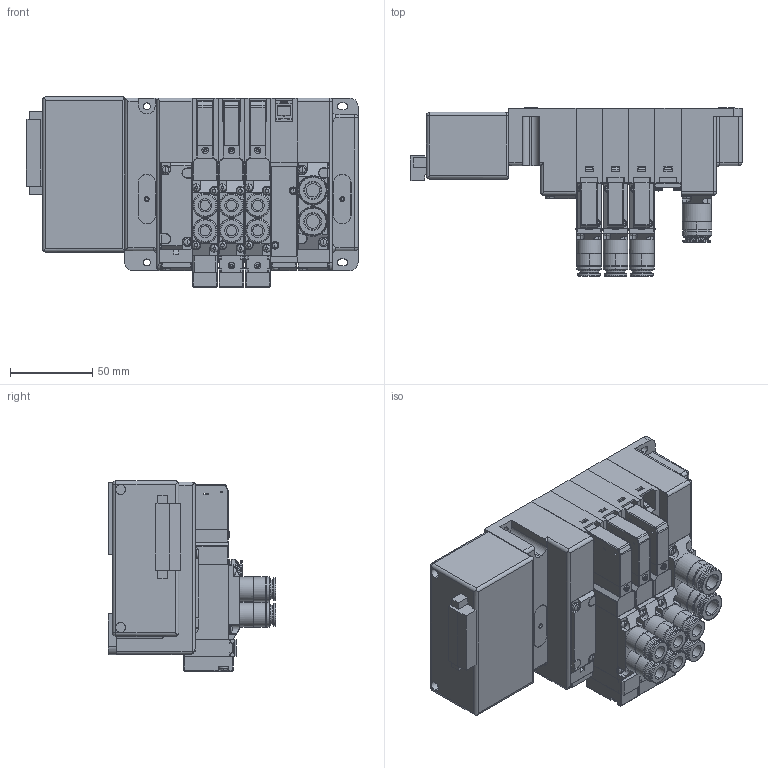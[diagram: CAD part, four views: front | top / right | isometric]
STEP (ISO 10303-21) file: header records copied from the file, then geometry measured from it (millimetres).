
FILE_DESCRIPTION( (''), '2;1');
FILE_NAME ('CVICAD02.4348.F15M4XS-JR-B1_21919.stp','2021-07-12T19:15:09',(''),(''),'spGate 12.6.6','','');
FILE_SCHEMA (('AUTOMOTIVE_DESIGN'));
Length unit declared in the file: millimetre
Products named in the file (22): Assembly; CVICAD02-prt0; CVICAD02-prt1; CVICAD02-asm1; CVICAD02-asm2; CVICAD02-prt10; CVICAD02-asm3; CVICAD02-asm4; CVICAD02-prt14; CVICAD02-prt15; CVICAD02-prt16; CVICAD02-prt2; CVICAD02-prt3; CVICAD02-prt4; CVICAD02-prt5; CVICAD02-prt6; CVICAD02-prt7; CVICAD02-prt8; CVICAD02-prt9; CVICAD02-prt11; Y029261_キャップ(DINねじ穴用)_20190809; CVICAD02-prt13
Assembly tree (37 placements, depth 3):
  Assembly
    CVICAD02-prt0  x4
    CVICAD02-prt1  x3
    CVICAD02-asm1
      CVICAD02-prt2
      CVICAD02-prt3
      CVICAD02-prt4
      CVICAD02-prt5
      CVICAD02-prt6
      CVICAD02-prt7
      CVICAD02-prt8
    CVICAD02-asm2  x2
      CVICAD02-prt2
      CVICAD02-prt3
      CVICAD02-prt4
      CVICAD02-prt6
      CVICAD02-prt9
      CVICAD02-prt7
      CVICAD02-prt8
    CVICAD02-prt10
    CVICAD02-asm3
      CVICAD02-prt11
      Y029261_キャップ(DINねじ穴用)_20190809
    CVICAD02-asm4
      Y029261_キャップ(DINねじ穴用)_20190809
      CVICAD02-prt13
    CVICAD02-prt14  x4
    CVICAD02-prt15
    CVICAD02-prt16
Bounding box: 202 x 102.1 x 115.69 mm (x, y, z)
Volume: 987728.5 mm3; surface area: 225232.2 mm2
Topology: 39 solids, 39 shells, 3161 faces, 8110 edges, 5196 vertices
Faces by surface type: plane 1968, cylinder 853, bspline 300, sphere 40
Entity records: 74161 total; most frequent: CARTESIAN_POINT 10465, ORIENTED_EDGE 7234, DIRECTION 6816, COLOUR_RGB 5060, PRESENTATION_STYLE_ASSIGNMENT 5060, STYLED_ITEM 5060, EDGE_CURVE 3617, DRAUGHTING_PRE_DEFINED_CURVE_FONT 3617
